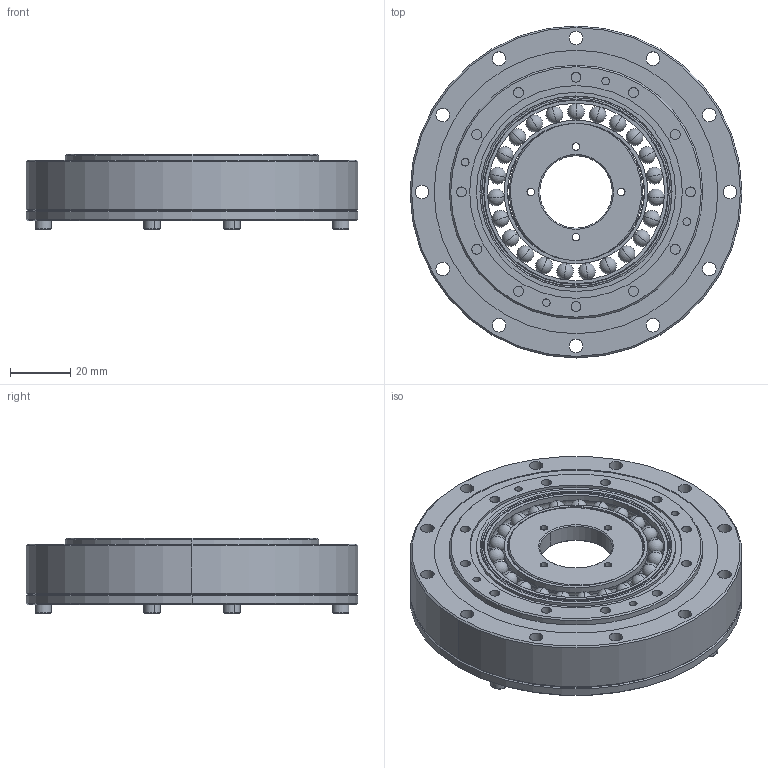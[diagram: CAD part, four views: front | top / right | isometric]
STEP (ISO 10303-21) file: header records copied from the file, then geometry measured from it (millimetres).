
FILE_DESCRIPTION (( 'STEP AP203' ), '1' );
FILE_NAME ('BHD-25-XXX-U-¢ñ.STEP', '2019-01-15T06:12:50', ( 'User' ), ( 'China' ), 'SwSTEP 2.0', 'SolidWorks 2015', '' );
FILE_SCHEMA (( 'CONFIG_CONTROL_DESIGN' ));
Length unit declared in the file: millimetre
Products named in the file (1): BHD-25-XXX-U-ｉ
Bounding box: 110 x 110 x 25 mm (x, y, z)
Surface area: 46945.9 mm2 (no closed solid volume)
Topology: 0 solids, 32 shells, 285 faces, 813 edges, 527 vertices
Faces by surface type: cylinder 126, plane 51, cone 46, sphere 46, torus 10, bspline 6
Entity records: 11914 total; most frequent: CARTESIAN_POINT 4822, DIRECTION 1642, ORIENTED_EDGE 1238, EDGE_CURVE 690, AXIS2_PLACEMENT_3D 686, VERTEX_POINT 458, CIRCLE 406, EDGE_LOOP 372
